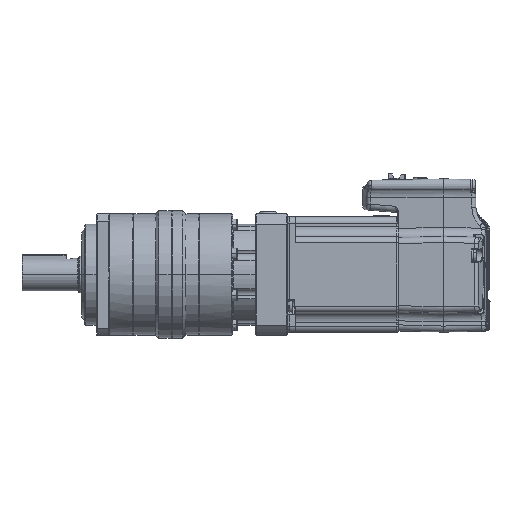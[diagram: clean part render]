
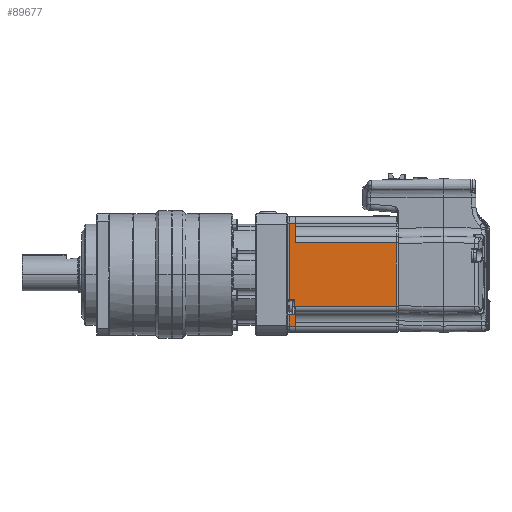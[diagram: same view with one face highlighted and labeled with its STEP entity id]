
A CAD part, left-side view. The second image highlights one B-rep face of the part: STEP entity #89677.
In plain terms, the highlighted planar face has unit normal (-1, 0, 0).
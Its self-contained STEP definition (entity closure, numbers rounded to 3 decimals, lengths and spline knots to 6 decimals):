
#14337 = EDGE_CURVE ( 'NONE', #153623, #153560, #81121, .T. ) ;
#14338 = EDGE_CURVE ( 'NONE', #153605, #153623, #81104, .T. ) ;
#14339 = EDGE_CURVE ( 'NONE', #153605, #153540, #81134, .T. ) ;
#14394 = EDGE_CURVE ( 'NONE', #153564, #153560, #81500, .T. ) ;
#14395 = EDGE_CURVE ( 'NONE', #153449, #153564, #81508, .T. ) ;
#14398 = EDGE_CURVE ( 'NONE', #153553, #153449, #81531, .T. ) ;
#14399 = EDGE_CURVE ( 'NONE', #153542, #153553, #81539, .T. ) ;
#14401 = EDGE_CURVE ( 'NONE', #153549, #153542, #81479, .T. ) ;
#14403 = EDGE_CURVE ( 'NONE', #153547, #153549, #81557, .T. ) ;
#14405 = EDGE_CURVE ( 'NONE', #153436, #153547, #81569, .T. ) ;
#14408 = EDGE_CURVE ( 'NONE', #153538, #153436, #81607, .T. ) ;
#14414 = EDGE_CURVE ( 'NONE', #153540, #153538, #81644, .T. ) ;
#48589 = DIRECTION ( 'NONE',  ( 0., 1., 0. ) ) ;
#48618 = CARTESIAN_POINT ( 'NONE',  ( -0.028182, 0.058208, -0.01577 ) ) ;
#48645 = CARTESIAN_POINT ( 'NONE',  ( -0.028182, 0.008208, 0.01577 ) ) ;
#48666 = DIRECTION ( 'NONE',  ( 0., 0., -1. ) ) ;
#48678 = CARTESIAN_POINT ( 'NONE',  ( -0.028182, 0.007208, 0.01577 ) ) ;
#48686 = DIRECTION ( 'NONE',  ( 0., 1., 0. ) ) ;
#49419 = CARTESIAN_POINT ( 'NONE',  ( -0.028182, 0.058208, -0.0285 ) ) ;
#49426 = DIRECTION ( 'NONE',  ( 0., 0., 1. ) ) ;
#49430 = CARTESIAN_POINT ( 'NONE',  ( -0.028182, 0.007208, -0.0255 ) ) ;
#49437 = DIRECTION ( 'NONE',  ( 0., -1., 0. ) ) ;
#49443 = DIRECTION ( 'NONE',  ( 0., 0., -1. ) ) ;
#49465 = CARTESIAN_POINT ( 'NONE',  ( -0.028182, 0.061208, -0.0285 ) ) ;
#49470 = DIRECTION ( 'NONE',  ( 0., 0., -1. ) ) ;
#49474 = CARTESIAN_POINT ( 'NONE',  ( -0.028182, 0.007208, -0.0196 ) ) ;
#49481 = DIRECTION ( 'NONE',  ( 0., 1., 0. ) ) ;
#49486 = CARTESIAN_POINT ( 'NONE',  ( -0.028182, 0.007208, -0.0122 ) ) ;
#49490 = CARTESIAN_POINT ( 'NONE',  ( -0.028182, 0.061208, -0.0285 ) ) ;
#49494 = CARTESIAN_POINT ( 'NONE',  ( -0.028182, 0.058708, -0.0285 ) ) ;
#49521 = DIRECTION ( 'NONE',  ( 0., -1., 0. ) ) ;
#49541 = DIRECTION ( 'NONE',  ( 0., 0., -1. ) ) ;
#49577 = CARTESIAN_POINT ( 'NONE',  ( -0.028182, 0.007208, 0.0255 ) ) ;
#49581 = DIRECTION ( 'NONE',  ( 0., 1., 0. ) ) ;
#49609 = DIRECTION ( 'NONE',  ( 0., 0., 1. ) ) ;
#49613 = CARTESIAN_POINT ( 'NONE',  ( -0.028182, 0.058208, -0.0285 ) ) ;
#52736 = CARTESIAN_POINT ( 'NONE',  ( -0.028182, 0.007208, -0.0285 ) ) ;
#52748 = PLANE ( 'NONE',  #58808 ) ;
#52754 = DIRECTION ( 'NONE',  ( -1., 0., 0. ) ) ;
#52756 = DIRECTION ( 'NONE',  ( 0., 0., 1. ) ) ;
#53415 = FACE_OUTER_BOUND ( 'NONE', #150189, .T. ) ;
#58808 = AXIS2_PLACEMENT_3D ( 'NONE', #52736, #52754, #52756 ) ;
#79101 = CARTESIAN_POINT ( 'NONE',  ( -0.028182, 0.061208, 0.0255 ) ) ;
#79110 = CARTESIAN_POINT ( 'NONE',  ( -0.028182, 0.061208, -0.0255 ) ) ;
#79192 = CARTESIAN_POINT ( 'NONE',  ( -0.028182, 0.058208, 0.0255 ) ) ;
#79194 = CARTESIAN_POINT ( 'NONE',  ( -0.028182, 0.058208, 0.01577 ) ) ;
#79196 = CARTESIAN_POINT ( 'NONE',  ( -0.028182, 0.058708, -0.0196 ) ) ;
#79200 = CARTESIAN_POINT ( 'NONE',  ( -0.028182, 0.061208, -0.0122 ) ) ;
#79202 = CARTESIAN_POINT ( 'NONE',  ( -0.028182, 0.058708, -0.0122 ) ) ;
#79206 = CARTESIAN_POINT ( 'NONE',  ( -0.028182, 0.061208, -0.0196 ) ) ;
#79212 = CARTESIAN_POINT ( 'NONE',  ( -0.028182, 0.058208, -0.01577 ) ) ;
#79216 = CARTESIAN_POINT ( 'NONE',  ( -0.028182, 0.058208, -0.0255 ) ) ;
#79254 = CARTESIAN_POINT ( 'NONE',  ( -0.028182, 0.008208, 0.01577 ) ) ;
#79270 = CARTESIAN_POINT ( 'NONE',  ( -0.028182, 0.008208, -0.01577 ) ) ;
#81104 = LINE ( 'NONE', #48645, #81137 ) ;
#81121 = LINE ( 'NONE', #48618, #81129 ) ;
#81129 = VECTOR ( 'NONE', #48589, 1. ) ;
#81134 = LINE ( 'NONE', #48678, #81145 ) ;
#81137 = VECTOR ( 'NONE', #48666, 1. ) ;
#81145 = VECTOR ( 'NONE', #48686, 1. ) ;
#81479 = LINE ( 'NONE', #49494, #81566 ) ;
#81500 = LINE ( 'NONE', #49419, #81512 ) ;
#81508 = LINE ( 'NONE', #49430, #81520 ) ;
#81512 = VECTOR ( 'NONE', #49426, 1. ) ;
#81520 = VECTOR ( 'NONE', #49437, 1. ) ;
#81531 = LINE ( 'NONE', #49465, #81544 ) ;
#81539 = LINE ( 'NONE', #49474, #81553 ) ;
#81544 = VECTOR ( 'NONE', #49470, 1. ) ;
#81553 = VECTOR ( 'NONE', #49481, 1. ) ;
#81557 = LINE ( 'NONE', #49486, #81580 ) ;
#81566 = VECTOR ( 'NONE', #49443, 1. ) ;
#81569 = LINE ( 'NONE', #49490, #81598 ) ;
#81580 = VECTOR ( 'NONE', #49521, 1. ) ;
#81598 = VECTOR ( 'NONE', #49541, 1. ) ;
#81607 = LINE ( 'NONE', #49577, #81619 ) ;
#81619 = VECTOR ( 'NONE', #49581, 1. ) ;
#81644 = LINE ( 'NONE', #49613, #81653 ) ;
#81653 = VECTOR ( 'NONE', #49609, 1. ) ;
#89677 = ADVANCED_FACE ( 'NONE', ( #53415 ), #52748, .T. ) ;
#150189 = EDGE_LOOP ( 'NONE', ( #154017, #154018, #154019, #154020, #154021, #154022, #154023, #154024, #154025, #154026, #154027, #154028 ) ) ;
#153436 = VERTEX_POINT ( 'NONE', #79101 ) ;
#153449 = VERTEX_POINT ( 'NONE', #79110 ) ;
#153538 = VERTEX_POINT ( 'NONE', #79192 ) ;
#153540 = VERTEX_POINT ( 'NONE', #79194 ) ;
#153542 = VERTEX_POINT ( 'NONE', #79196 ) ;
#153547 = VERTEX_POINT ( 'NONE', #79200 ) ;
#153549 = VERTEX_POINT ( 'NONE', #79202 ) ;
#153553 = VERTEX_POINT ( 'NONE', #79206 ) ;
#153560 = VERTEX_POINT ( 'NONE', #79212 ) ;
#153564 = VERTEX_POINT ( 'NONE', #79216 ) ;
#153605 = VERTEX_POINT ( 'NONE', #79254 ) ;
#153623 = VERTEX_POINT ( 'NONE', #79270 ) ;
#154017 = ORIENTED_EDGE ( 'NONE', *, *, #14338, .F. ) ;
#154018 = ORIENTED_EDGE ( 'NONE', *, *, #14339, .T. ) ;
#154019 = ORIENTED_EDGE ( 'NONE', *, *, #14414, .T. ) ;
#154020 = ORIENTED_EDGE ( 'NONE', *, *, #14408, .T. ) ;
#154021 = ORIENTED_EDGE ( 'NONE', *, *, #14405, .T. ) ;
#154022 = ORIENTED_EDGE ( 'NONE', *, *, #14403, .T. ) ;
#154023 = ORIENTED_EDGE ( 'NONE', *, *, #14401, .T. ) ;
#154024 = ORIENTED_EDGE ( 'NONE', *, *, #14399, .T. ) ;
#154025 = ORIENTED_EDGE ( 'NONE', *, *, #14398, .T. ) ;
#154026 = ORIENTED_EDGE ( 'NONE', *, *, #14395, .T. ) ;
#154027 = ORIENTED_EDGE ( 'NONE', *, *, #14394, .T. ) ;
#154028 = ORIENTED_EDGE ( 'NONE', *, *, #14337, .F. ) ;
